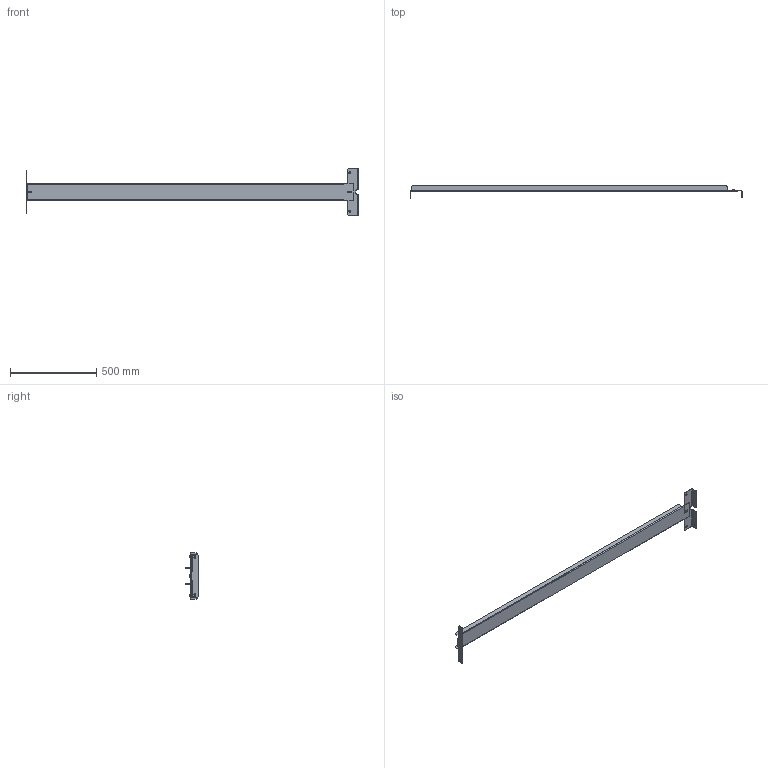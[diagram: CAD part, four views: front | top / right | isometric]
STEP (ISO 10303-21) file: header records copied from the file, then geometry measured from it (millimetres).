
FILE_DESCRIPTION((''),'2;1');
FILE_NAME('MODEL-379_ASM','2021-11-24T13:47:15',('mikek'),('SAGINAW CONTROL & ENGINEERING'),'CREO PARAMETRIC BY PTC INC, 2017260','CREO PARAMETRIC BY PTC INC, 2017260','');
FILE_SCHEMA(('AUTOMOTIVE_DESIGN { 1 0 10303 214 1 1 1 1 }'));
Length unit declared in the file: inch
Products named in the file (9): MODEL-379-FILLER-PLT; MODEL-379-TOP-MTG-ANGLE; 100026_AF0; 100026_AF1; 100026_AF2; MODEL-379-BTM-MTG-ANGLE; 100026_AF3; 108626; MODEL-379_ASM
Assembly tree (8 placements, depth 2):
  MODEL-379_ASM
    MODEL-379-FILLER-PLT
    MODEL-379-TOP-MTG-ANGLE
    100026_AF0
    100026_AF1
    100026_AF2
    MODEL-379-BTM-MTG-ANGLE
    100026_AF3
    108626
Bounding box: 1921.54 x 69.46 x 266.25 mm (x, y, z)
Volume: 972836.4 mm3; surface area: 657111.3 mm2
Topology: 7 solids, 7 shells, 182 faces, 432 edges, 268 vertices
Faces by surface type: cylinder 80, plane 78, cone 24
Entity records: 8657 total; most frequent: DIRECTION 1014, CARTESIAN_POINT 921, ORIENTED_EDGE 864, PRESENTATION_STYLE_ASSIGNMENT 439, STYLED_ITEM 439, CURVE_STYLE 432, EDGE_CURVE 432, AXIS2_PLACEMENT_3D 383
